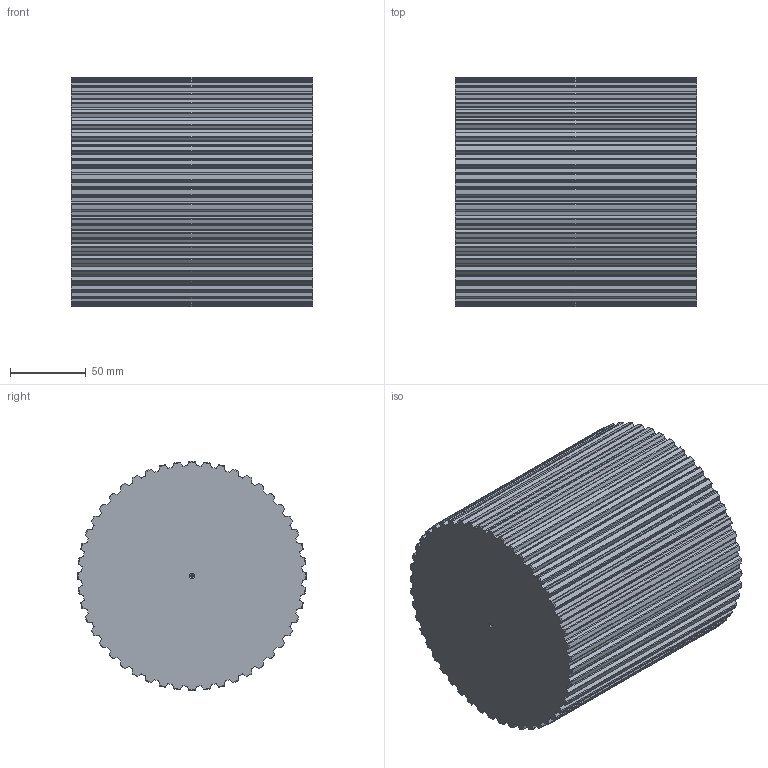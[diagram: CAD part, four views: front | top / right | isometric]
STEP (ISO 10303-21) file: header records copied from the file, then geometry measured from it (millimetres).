
FILE_DESCRIPTION(('STEP AP203'),'1');
FILE_NAME('bart_48.stp','2022-04-21T08:21:13',('TraceParts'),('TraceParts S.A.'),'Spatial InterOp 3D',' ',' ');
FILE_SCHEMA(('CONFIG_CONTROL_DESIGN'));
Length unit declared in the file: millimetre
Products named in the file (1): 1
Bounding box: 160 x 151.78 x 151.78 mm (x, y, z)
Volume: 2790914.2 mm3; surface area: 134481.4 mm2
Topology: 1 solids, 1 shells, 498 faces, 1480 edges, 982 vertices
Faces by surface type: cylinder 292, cone 108, plane 98
Entity records: 17988 total; most frequent: CARTESIAN_POINT 5069, ORIENTED_EDGE 2952, DIRECTION 2590, EDGE_CURVE 1476, AXIS2_PLACEMENT_3D 999, VERTEX_POINT 982, LINE 592, VECTOR 592
